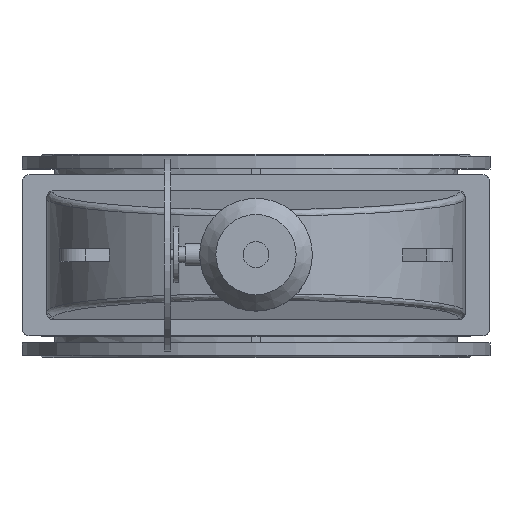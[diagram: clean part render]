
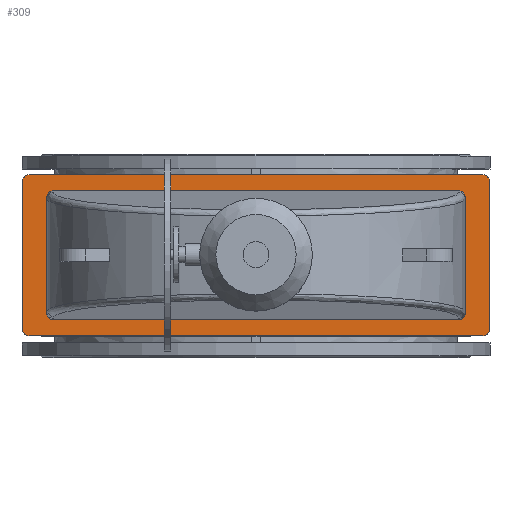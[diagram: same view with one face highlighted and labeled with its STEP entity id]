
A CAD part, top view. The second image highlights one B-rep face of the part: STEP entity #309.
In plain terms, the highlighted planar face has unit normal (0, 0, 1).
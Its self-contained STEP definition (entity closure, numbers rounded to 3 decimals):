
#309=ADVANCED_FACE('',(#4293,#4295),#4297,.T.);
#4293=FACE_BOUND('',#4294,.T.);
#4294=EDGE_LOOP('',(#10536,#10537,#10538,#10539,#10540,#10541,#10542,#10543));
#4295=FACE_BOUND('',#4296,.T.);
#4296=EDGE_LOOP('',(#10544,#10545,#10546,#10547,#10548,#10549,#10550,#10551));
#4297=PLANE('',#4298);
#4298=AXIS2_PLACEMENT_3D('',#4299,#4300,#4301);
#4299=CARTESIAN_POINT('',(0.,0.,1316.));
#4300=DIRECTION('',(0.,-0.,1.));
#4301=DIRECTION('',(0.,1.,0.));
#10536=ORIENTED_EDGE('',*,*,#12234,.F.);
#10537=ORIENTED_EDGE('',*,*,#12235,.T.);
#10538=ORIENTED_EDGE('',*,*,#12236,.F.);
#10539=ORIENTED_EDGE('',*,*,#12237,.T.);
#10540=ORIENTED_EDGE('',*,*,#12238,.F.);
#10541=ORIENTED_EDGE('',*,*,#12239,.T.);
#10542=ORIENTED_EDGE('',*,*,#12240,.F.);
#10543=ORIENTED_EDGE('',*,*,#12241,.T.);
#10544=ORIENTED_EDGE('',*,*,#12232,.F.);
#10545=ORIENTED_EDGE('',*,*,#12231,.F.);
#10546=ORIENTED_EDGE('',*,*,#12233,.F.);
#10547=ORIENTED_EDGE('',*,*,#12206,.F.);
#10548=ORIENTED_EDGE('',*,*,#12242,.F.);
#10549=ORIENTED_EDGE('',*,*,#12243,.F.);
#10550=ORIENTED_EDGE('',*,*,#12244,.F.);
#10551=ORIENTED_EDGE('',*,*,#12199,.F.);
#12199=EDGE_CURVE('',#13094,#13096,#13097,.T.);
#12206=EDGE_CURVE('',#13106,#13104,#13108,.T.);
#12231=EDGE_CURVE('',#13147,#13145,#13149,.T.);
#12232=EDGE_CURVE('',#13145,#13094,#13150,.F.);
#12233=EDGE_CURVE('',#13104,#13147,#13151,.T.);
#12234=EDGE_CURVE('',#13152,#13153,#13154,.F.);
#12235=EDGE_CURVE('',#13152,#13155,#13156,.T.);
#12236=EDGE_CURVE('',#13157,#13155,#13158,.F.);
#12237=EDGE_CURVE('',#13157,#13159,#13160,.T.);
#12238=EDGE_CURVE('',#13161,#13159,#13162,.F.);
#12239=EDGE_CURVE('',#13161,#13163,#13164,.T.);
#12240=EDGE_CURVE('',#13165,#13163,#13166,.F.);
#12241=EDGE_CURVE('',#13165,#13153,#13167,.T.);
#12242=EDGE_CURVE('',#13168,#13106,#13169,.F.);
#12243=EDGE_CURVE('',#13170,#13168,#13171,.T.);
#12244=EDGE_CURVE('',#13096,#13170,#13172,.T.);
#13094=VERTEX_POINT('',#14770);
#13096=VERTEX_POINT('',#14774);
#13097=LINE('',#14775,#14776);
#13104=VERTEX_POINT('',#14795);
#13106=VERTEX_POINT('',#14799);
#13108=LINE('',#14803,#14804);
#13145=VERTEX_POINT('',#14896);
#13147=VERTEX_POINT('',#14900);
#13149=LINE('',#14904,#14905);
#13150=(BOUNDED_CURVE()B_SPLINE_CURVE(3,
(#14907,#14908,#14909,#14910),
.UNSPECIFIED.,.F.,.F.)B_SPLINE_CURVE_WITH_KNOTS((4,4),
(0.,1.),
.UNSPECIFIED.)CURVE()GEOMETRIC_REPRESENTATION_ITEM()RATIONAL_B_SPLINE_CURVE((1.,
0.805,0.805,1.))REPRESENTATION_ITEM(''));
#13151=(BOUNDED_CURVE()B_SPLINE_CURVE(3,
(#14911,#14912,#14913,#14914),
.UNSPECIFIED.,.F.,.F.)B_SPLINE_CURVE_WITH_KNOTS((4,4),
(0.,1.),
.UNSPECIFIED.)CURVE()GEOMETRIC_REPRESENTATION_ITEM()RATIONAL_B_SPLINE_CURVE((1.,
0.805,0.805,1.))REPRESENTATION_ITEM(''));
#13152=VERTEX_POINT('',#14915);
#13153=VERTEX_POINT('',#14916);
#13154=CIRCLE('',#14917,20.);
#13155=VERTEX_POINT('',#14921);
#13156=LINE('',#14922,#14923);
#13157=VERTEX_POINT('',#14925);
#13158=CIRCLE('',#14926,20.);
#13159=VERTEX_POINT('',#14930);
#13160=LINE('',#14931,#14932);
#13161=VERTEX_POINT('',#14934);
#13162=CIRCLE('',#14935,20.);
#13163=VERTEX_POINT('',#14939);
#13164=LINE('',#14940,#14941);
#13165=VERTEX_POINT('',#14943);
#13166=CIRCLE('',#14944,20.);
#13167=LINE('',#14948,#14949);
#13168=VERTEX_POINT('',#14951);
#13169=(BOUNDED_CURVE()B_SPLINE_CURVE(3,
(#14952,#14953,#14954,#14955),
.UNSPECIFIED.,.F.,.F.)B_SPLINE_CURVE_WITH_KNOTS((4,4),
(0.,1.),
.UNSPECIFIED.)CURVE()GEOMETRIC_REPRESENTATION_ITEM()RATIONAL_B_SPLINE_CURVE((1.,
0.805,0.805,1.))REPRESENTATION_ITEM(''));
#13170=VERTEX_POINT('',#14956);
#13171=LINE('',#14957,#14958);
#13172=(BOUNDED_CURVE()B_SPLINE_CURVE(3,
(#14960,#14961,#14962,#14963),
.UNSPECIFIED.,.F.,.F.)B_SPLINE_CURVE_WITH_KNOTS((4,4),
(0.,1.),
.UNSPECIFIED.)CURVE()GEOMETRIC_REPRESENTATION_ITEM()RATIONAL_B_SPLINE_CURVE((1.,
0.805,0.805,1.))REPRESENTATION_ITEM(''));
#14770=CARTESIAN_POINT('',(650.,-179.924,1316.));
#14774=CARTESIAN_POINT('',(650.,179.924,1316.));
#14775=CARTESIAN_POINT('',(650.,-179.924,1316.));
#14776=VECTOR('',#14777,1.);
#14777=DIRECTION('',(0.,1.,0.));
#14795=CARTESIAN_POINT('',(-650.,-179.924,1316.));
#14799=CARTESIAN_POINT('',(-650.,179.924,1316.));
#14803=CARTESIAN_POINT('',(-650.,179.924,1316.));
#14804=VECTOR('',#14805,1.);
#14805=DIRECTION('',(0.,-1.,0.));
#14896=CARTESIAN_POINT('',(630.,-200.,1316.));
#14900=CARTESIAN_POINT('',(-630.,-200.,1316.));
#14904=CARTESIAN_POINT('',(-630.,-200.,1316.));
#14905=VECTOR('',#14906,1.);
#14906=DIRECTION('',(1.,0.,0.));
#14907=CARTESIAN_POINT('',(650.,-179.924,1316.));
#14908=CARTESIAN_POINT('',(650.,-191.684,1316.));
#14909=CARTESIAN_POINT('',(641.716,-200.,1316.));
#14910=CARTESIAN_POINT('',(630.,-200.,1316.));
#14911=CARTESIAN_POINT('',(-650.,-179.924,1316.));
#14912=CARTESIAN_POINT('',(-650.,-191.684,1316.));
#14913=CARTESIAN_POINT('',(-641.716,-200.,1316.));
#14914=CARTESIAN_POINT('',(-630.,-200.,1316.));
#14915=CARTESIAN_POINT('',(-705.,-250.,1316.));
#14916=CARTESIAN_POINT('',(-725.,-230.,1316.));
#14917=AXIS2_PLACEMENT_3D('',#14918,#14919,#14920);
#14918=CARTESIAN_POINT('',(-705.,-230.,1316.));
#14919=DIRECTION('',(0.,-0.,1.));
#14920=DIRECTION('',(-1.,0.,0.));
#14921=CARTESIAN_POINT('',(705.,-250.,1316.));
#14922=CARTESIAN_POINT('',(-705.,-250.,1316.));
#14923=VECTOR('',#14924,1.);
#14924=DIRECTION('',(1.,0.,0.));
#14925=CARTESIAN_POINT('',(725.,-230.,1316.));
#14926=AXIS2_PLACEMENT_3D('',#14927,#14928,#14929);
#14927=CARTESIAN_POINT('',(705.,-230.,1316.));
#14928=DIRECTION('',(0.,-0.,1.));
#14929=DIRECTION('',(0.,-1.,0.));
#14930=CARTESIAN_POINT('',(725.,230.,1316.));
#14931=CARTESIAN_POINT('',(725.,-230.,1316.));
#14932=VECTOR('',#14933,1.);
#14933=DIRECTION('',(0.,1.,0.));
#14934=CARTESIAN_POINT('',(705.,250.,1316.));
#14935=AXIS2_PLACEMENT_3D('',#14936,#14937,#14938);
#14936=CARTESIAN_POINT('',(705.,230.,1316.));
#14937=DIRECTION('',(0.,-0.,1.));
#14938=DIRECTION('',(1.,0.,0.));
#14939=CARTESIAN_POINT('',(-705.,250.,1316.));
#14940=CARTESIAN_POINT('',(705.,250.,1316.));
#14941=VECTOR('',#14942,1.);
#14942=DIRECTION('',(-1.,0.,0.));
#14943=CARTESIAN_POINT('',(-725.,230.,1316.));
#14944=AXIS2_PLACEMENT_3D('',#14945,#14946,#14947);
#14945=CARTESIAN_POINT('',(-705.,230.,1316.));
#14946=DIRECTION('',(0.,-0.,1.));
#14947=DIRECTION('',(0.,1.,0.));
#14948=CARTESIAN_POINT('',(-725.,230.,1316.));
#14949=VECTOR('',#14950,1.);
#14950=DIRECTION('',(0.,-1.,0.));
#14951=CARTESIAN_POINT('',(-630.,200.,1316.));
#14952=CARTESIAN_POINT('',(-650.,179.924,1316.));
#14953=CARTESIAN_POINT('',(-650.,191.684,1316.));
#14954=CARTESIAN_POINT('',(-641.716,200.,1316.));
#14955=CARTESIAN_POINT('',(-630.,200.,1316.));
#14956=CARTESIAN_POINT('',(630.,200.,1316.));
#14957=CARTESIAN_POINT('',(630.,200.,1316.));
#14958=VECTOR('',#14959,1.);
#14959=DIRECTION('',(-1.,0.,0.));
#14960=CARTESIAN_POINT('',(650.,179.924,1316.));
#14961=CARTESIAN_POINT('',(650.,191.684,1316.));
#14962=CARTESIAN_POINT('',(641.716,200.,1316.));
#14963=CARTESIAN_POINT('',(630.,200.,1316.));
